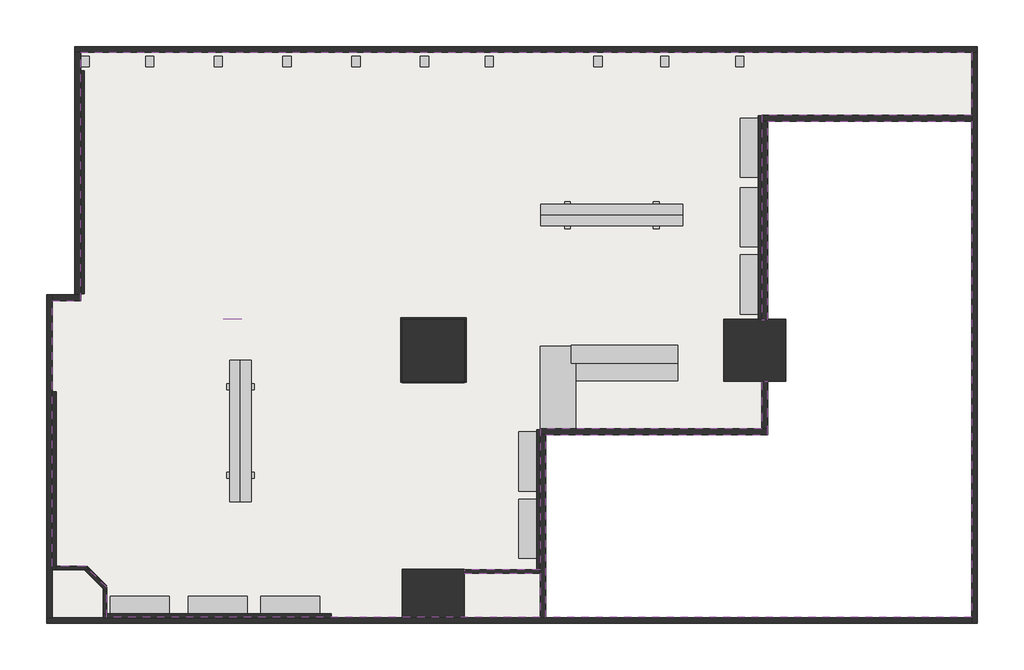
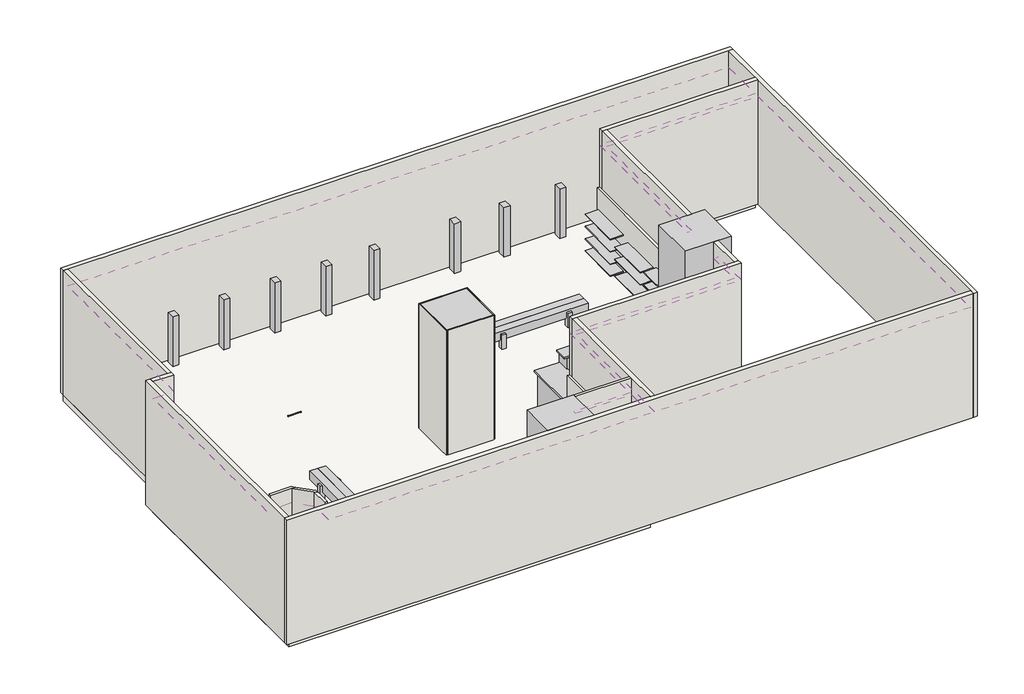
# One storey: 25 walls, 13 columns, 10 proxies, 2 furniture elements, 1 covering, 1 light fixture, 1 slab.
"""IFC4 building model written with IfcOpenShell, lengths in millimetres."""

from ifc_helpers import new_model, si_unit, frame, origin, origin_with_axes, place, context, project, spatial, polyline, outline, extrude, faceted_brep, transform, mapped, element, save
from components import specialty_equipment_e69ed6fe, generic_models_bc6898c8, generic_models_32a9213d, column_0fe4bcd3, column_105x105cm_051beba1, column_105x82cm_b301bd04, furniture_28d2bb1b, furniture_8bda5d38, light_fixture_e90a5b80

model = new_model("IFC4")

# Units and contexts
model_context = context("Model", 3, world=origin())
ifc_project = project(units=[si_unit("LENGTHUNIT", "METRE", prefix="MILLI")], contexts=[model_context])

# Site, building, storey
site = spatial("IfcSite", under=ifc_project)
building = spatial("IfcBuilding", under=site)
storey = spatial("IfcBuildingStorey", under=building, Name="樓層 1", Elevation=0.0)

# Proxies
placement = place(None, origin())
specialty_equipment_shape = specialty_equipment_e69ed6fe(model_context)
element("IfcBuildingElementProxy", 1, Name="香木隔板 : 香木隔板", ObjectType="香木隔板 : 香木隔板", at=placement, inside=storey, context=model_context, shape_type="MappedRepresentation", body=[
    mapped(specialty_equipment_shape, transform((4366.9757226, 3255.3110242, 0.0), x_axis=(1.0, 0.0, 0.0), y_axis=(0.0, 1.0, 0.0), z_axis=(0.0, 0.0, 1.0))),
])
element("IfcBuildingElementProxy", 2, Name="香木隔板 : 香木隔板", ObjectType="香木隔板 : 香木隔板", at=placement, inside=storey, context=model_context, shape_type="MappedRepresentation", body=[
    mapped(specialty_equipment_shape, transform((4366.9757226, 938.6443575, 0.0), x_axis=(1.0, 0.0, 0.0), y_axis=(0.0, 1.0, 0.0), z_axis=(0.0, 0.0, 1.0))),
])
element("IfcBuildingElementProxy", 3, Name="香木隔板 : 香木隔板", ObjectType="香木隔板 : 香木隔板", at=placement, inside=storey, context=model_context, shape_type="MappedRepresentation", body=[
    mapped(specialty_equipment_shape, transform((616.9757226, -2054.6889758, 0.0), x_axis=(1.0, 0.0, 0.0), y_axis=(0.0, 1.0, 0.0), z_axis=(0.0, 0.0, 1.0))),
])
element("IfcBuildingElementProxy", 4, Name="香木隔板 : 香木隔板", ObjectType="香木隔板 : 香木隔板", at=placement, inside=storey, context=model_context, shape_type="MappedRepresentation", body=[
    mapped(specialty_equipment_shape, transform((-3399.1793928, -4486.4048327, 0.0), x_axis=(-0.0034299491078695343, -0.999994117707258, 0.0), y_axis=(0.999994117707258, -0.0034299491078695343, 0.0), z_axis=(0.0, 0.0, 1.0))),
])
element("IfcBuildingElementProxy", 5, Name="香木隔板 : 香木隔板", ObjectType="香木隔板 : 香木隔板", at=placement, inside=storey, context=model_context, shape_type="MappedRepresentation", body=[
    mapped(specialty_equipment_shape, transform((-5944.7188294, -4486.4048327, 0.0), x_axis=(-0.0034299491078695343, -0.999994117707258, 0.0), y_axis=(0.999994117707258, -0.0034299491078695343, 0.0), z_axis=(0.0, 0.0, 1.0))),
])
generic_models_shape = generic_models_bc6898c8(model_context)
element("IfcBuildingElementProxy", 6, Name="香木隔板2 : 香木隔板2", ObjectType="香木隔板2 : 香木隔板2", at=placement, inside=storey, context=model_context, shape_type="MappedRepresentation", body=[
    mapped(generic_models_shape, transform((4366.9757226, 2075.3110242, 0.0), x_axis=(1.0, 0.0, 0.0), y_axis=(0.0, 1.0, 0.0), z_axis=(0.0, 0.0, 1.0))),
])
element("IfcBuildingElementProxy", 7, Name="香木隔板2 : 香木隔板2", ObjectType="香木隔板2 : 香木隔板2", at=placement, inside=storey, context=model_context, shape_type="MappedRepresentation", body=[
    mapped(generic_models_shape, transform((616.9757226, -3194.6889758, 0.0), x_axis=(1.0, 0.0, 0.0), y_axis=(0.0, 1.0, 0.0), z_axis=(0.0, 0.0, 1.0))),
])
element("IfcBuildingElementProxy", 8, Name="香木隔板2 : 香木隔板2", ObjectType="香木隔板2 : 香木隔板2", at=placement, inside=storey, context=model_context, shape_type="MappedRepresentation", body=[
    mapped(generic_models_shape, transform((-4626.434607, -4484.6889758, 0.0), x_axis=(0.0, 1.0, 0.0), y_axis=(-1.0, 0.0, 0.0), z_axis=(0.0, 0.0, 1.0))),
])
generic_models_2_shape = generic_models_32a9213d(model_context)
element("IfcBuildingElementProxy", 9, Name="枕木椅 : 枕木椅", ObjectType="枕木椅 : 枕木椅", at=placement, inside=storey, context=model_context, shape_type="MappedRepresentation", body=[
    mapped(generic_models_2_shape, transform((2046.9757226, 1755.3110242, 0.0), x_axis=(1.0, 0.0, 0.0), y_axis=(0.0, 1.0, 0.0), z_axis=(0.0, 0.0, 1.0))),
])
element("IfcBuildingElementProxy", 10, Name="枕木椅 : 枕木椅", ObjectType="枕木椅 : 枕木椅", at=placement, inside=storey, context=model_context, shape_type="MappedRepresentation", body=[
    mapped(generic_models_2_shape, transform((-3884.5630462, -1531.2477319, 0.0), x_axis=(0.0, 1.0, 0.0), y_axis=(-1.0, 0.0, 0.0), z_axis=(0.0, 0.0, 1.0))),
])

# Columns
column_shape = column_0fe4bcd3(model_context)
element("IfcColumn", 11, ObjectType="混凝土柱-矩形 : 枕木14x18cm", at=placement, inside=storey, context=model_context, shape_type="MappedRepresentation", body=[
    mapped(column_shape, transform((-33.0242774, 4715.3110242, 0.0), x_axis=(1.0, 0.0, 0.0), y_axis=(0.0, 1.0, 0.0), z_axis=(0.0, 0.0, 1.0))),
])
element("IfcColumn", 12, ObjectType="混凝土柱-矩形 : 枕木14x18cm", at=placement, inside=storey, context=model_context, shape_type="MappedRepresentation", body=[
    mapped(column_shape, transform((-1128.0242774, 4715.3110242, 0.0), x_axis=(1.0, 0.0, 0.0), y_axis=(0.0, 1.0, 0.0), z_axis=(0.0, 0.0, 1.0))),
])
element("IfcColumn", 13, ObjectType="混凝土柱-矩形 : 枕木14x18cm", at=placement, inside=storey, context=model_context, shape_type="MappedRepresentation", body=[
    mapped(column_shape, transform((-2288.0242774, 4715.3110242, 0.0), x_axis=(1.0, 0.0, 0.0), y_axis=(0.0, 1.0, 0.0), z_axis=(0.0, 0.0, 1.0))),
])
element("IfcColumn", 14, ObjectType="混凝土柱-矩形 : 枕木14x18cm", at=placement, inside=storey, context=model_context, shape_type="MappedRepresentation", body=[
    mapped(column_shape, transform((-3453.0242774, 4715.3110242, 0.0), x_axis=(1.0, 0.0, 0.0), y_axis=(0.0, 1.0, 0.0), z_axis=(0.0, 0.0, 1.0))),
])
element("IfcColumn", 15, ObjectType="混凝土柱-矩形 : 枕木14x18cm", at=placement, inside=storey, context=model_context, shape_type="MappedRepresentation", body=[
    mapped(column_shape, transform((-4616.7013238, 4715.3110242, 0.0), x_axis=(1.0, 0.0, 0.0), y_axis=(0.0, 1.0, 0.0), z_axis=(0.0, 0.0, 1.0))),
])
element("IfcColumn", 16, ObjectType="混凝土柱-矩形 : 枕木14x18cm", at=placement, inside=storey, context=model_context, shape_type="MappedRepresentation", body=[
    mapped(column_shape, transform((-5778.0242774, 4715.3110242, 0.0), x_axis=(1.0, 0.0, 0.0), y_axis=(0.0, 1.0, 0.0), z_axis=(0.0, 0.0, 1.0))),
])
element("IfcColumn", 17, ObjectType="混凝土柱-矩形 : 枕木14x18cm", at=placement, inside=storey, context=model_context, shape_type="MappedRepresentation", body=[
    mapped(column_shape, transform((-6873.0242774, 4715.3110242, 0.0), x_axis=(1.0, 0.0, 0.0), y_axis=(0.0, 1.0, 0.0), z_axis=(0.0, 0.0, 1.0))),
])
element("IfcColumn", 18, ObjectType="混凝土柱-矩形 : 枕木14x18cm", at=placement, inside=storey, context=model_context, shape_type="MappedRepresentation", body=[
    mapped(column_shape, transform((4206.9757226, 4715.3110242, 0.0), x_axis=(1.0, 0.0, 0.0), y_axis=(0.0, 1.0, 0.0), z_axis=(0.0, 0.0, 1.0))),
])
element("IfcColumn", 19, ObjectType="混凝土柱-矩形 : 枕木14x18cm", at=placement, inside=storey, context=model_context, shape_type="MappedRepresentation", body=[
    mapped(column_shape, transform((2936.9757226, 4715.3110242, 0.0), x_axis=(1.0, 0.0, 0.0), y_axis=(0.0, 1.0, 0.0), z_axis=(0.0, 0.0, 1.0))),
])
element("IfcColumn", 20, ObjectType="混凝土柱-矩形 : 枕木14x18cm", at=placement, inside=storey, context=model_context, shape_type="MappedRepresentation", body=[
    mapped(column_shape, transform((1807.7079084, 4715.3110242, 0.0), x_axis=(1.0, 0.0, 0.0), y_axis=(0.0, 1.0, 0.0), z_axis=(0.0, 0.0, 1.0))),
])
column_105x105cm_shape = column_105x105cm_051beba1(model_context)
element("IfcColumn", 21, ObjectType="混凝土柱-矩形 : 105x105cm", at=placement, inside=storey, context=model_context, shape_type="MappedRepresentation", body=[
    mapped(column_105x105cm_shape, transform((4455.3682233, -174.6889758, 0.0), x_axis=(1.0, 0.0, 0.0), y_axis=(0.0, 1.0, 0.0), z_axis=(0.0, 0.0, 1.0))),
])
element("IfcColumn", 22, ObjectType="混凝土柱-矩形 : 105x105cm", at=placement, inside=storey, context=model_context, shape_type="MappedRepresentation", body=[
    mapped(column_105x105cm_shape, transform((-983.0242774, -174.6889758, 0.0), x_axis=(1.0, 0.0, 0.0), y_axis=(0.0, 1.0, 0.0), z_axis=(0.0, 0.0, 1.0))),
])
column_105x82cm_shape = column_105x82cm_b301bd04(model_context)
element("IfcColumn", 23, ObjectType="混凝土柱-矩形 : 105x82cm", at=placement, inside=storey, context=model_context, shape_type="MappedRepresentation", body=[
    mapped(column_105x82cm_shape, transform((-983.0242774, -4284.6889758, 0.0), x_axis=(1.0, 0.0, 0.0), y_axis=(0.0, 1.0, 0.0), z_axis=(0.0, 0.0, 1.0))),
])

# Covering
element("IfcCovering", 24, ObjectType="玻纖天花板 600x600mmx20mm 2", at=placement, inside=storey, context=model_context, shape_type="SweptSolid", body=[
    extrude(outline(polyline([(-6943.0242774, 4865.3110242), (8126.9757226, 4865.3110242), (8126.9757226, 3805.3110242), (4576.9757226, 3805.3110242), (4576.9757226, 345.3110242), (4676.9757226, 345.3110242), (4676.9757226, 3705.3110242), (8126.9757226, 3705.3110242), (8126.9757226, -4694.6889758), (926.9757226, -4694.6889758), (926.9757226, -1604.6889758), (4676.9757226, -1604.6889758), (4676.9757226, -704.6889758), (4576.9757226, -704.6889758), (4576.9757226, -1504.6889758), (826.9757226, -1504.6889758), (826.9757226, -3884.6889758), (-458.0242774, -3884.6889758), (-458.0242774, -3944.6889758), (826.9757226, -3944.6889758), (826.9757226, -4694.6889758), (-6505.2303807, -4694.6889758), (-6505.2303807, -4184.006221), (-6859.8722281, -3829.3643735), (-7423.0242774, -3829.3643735), (-7423.0242774, 665.3110242), (-6943.0242774, 665.3110242), (-6943.0242774, 4865.3110242)]), holes=[polyline([(-423.0242774, -724.6889758), (-423.0242774, 375.3110242), (-1533.0242774, 375.3110242), (-1533.0242774, -724.6889758), (-423.0242774, -724.6889758)])]), frame((0.0, 0.0, 2600.0), z_axis=(0.0, 0.0, 1.0), x_axis=(1.0, 0.0, 0.0)), (0.0, 0.0, 1.0), 20.0),
])

# Furniture
furniture_shape = furniture_28d2bb1b(model_context)
element("IfcFurniture", 25, ObjectType="櫃台 : 櫃台", at=placement, inside=storey, context=model_context, shape_type="MappedRepresentation", body=[
    mapped(furniture_shape, transform((2253.1658406, -389.2931998, 0.0), x_axis=(0.0, -1.0, 0.0), y_axis=(1.0, 0.0, 0.0), z_axis=(0.0, 0.0, 1.0))),
])
furniture_2_shape = furniture_8bda5d38(model_context)
element("IfcFurniture", 26, ObjectType="包裝台 : 包裝台", at=placement, inside=storey, context=model_context, shape_type="MappedRepresentation", body=[
    mapped(furniture_2_shape, transform((1126.9026587, -805.136746, 0.0), x_axis=(1.0, 0.0, 0.0), y_axis=(0.0, 1.0, 0.0), z_axis=(0.0, 0.0, 1.0))),
])

# Light fixture
light_fixture_shape = light_fixture_e90a5b80(model_context)
element("IfcLightFixture", 27, ObjectType="層板燈 (2)-向下照射 : 10瓦層板燈", at=placement, inside=storey, context=model_context, shape_type="MappedRepresentation", body=[
    mapped(light_fixture_shape, transform((-4373.0242774, 355.3110242, 0.0), x_axis=(1.0, 0.0, 0.0), y_axis=(0.0, 1.0, 0.0), z_axis=(0.0, 0.0, 1.0))),
])

# Slab
element("IfcSlab", 28, ObjectType="一般 - 15cm", at=placement, inside=storey, context=model_context, shape_type="SweptSolid", body=[
    extrude(outline(polyline([(-7043.0242774, 4865.3110242), (8126.9757226, 4865.3110242), (8126.9757226, 3805.3110242), (4576.9757226, 3805.3110242), (4576.9757226, 350.3110242), (4576.9757226, -704.6889758), (4576.9757226, -1504.6889758), (826.9757226, -1504.6889758), (826.9757226, -4694.6889758), (-7423.0242774, -4694.6889758), (-7423.0242774, 665.3110242), (-7043.0242774, 665.3110242), (-7043.0242774, 4865.3110242)])), frame((0.0, 0.0, -150.0), z_axis=(0.0, 0.0, 1.0), x_axis=(1.0, 0.0, 0.0)), (0.0, 0.0, 1.0), 150.0),
])

# Walls
element("IfcWall", 29, ObjectType="牆10cm", at=placement, inside=storey, context=model_context, shape_type="Brep", body=[
    faceted_brep([(-7043.0242774, 4865.3110242, 0.0), (-6943.0242774, 4865.3110242, 0.0), (8126.9757226, 4865.3110242, 0.0), (8226.9757226, 4865.3110242, 0.0), (8226.9757226, 4865.3110242, 3000.0), (8126.9757226, 4865.3110242, 3000.0), (-6943.0242774, 4865.3110242, 3000.0), (-7043.0242774, 4865.3110242, 3000.0), (-7043.0242774, 4965.3110242, 0.0), (-7043.0242774, 4965.3110242, 3000.0), (8226.9757226, 4965.3110242, 3000.0), (8226.9757226, 4965.3110242, 0.0)], [[[0, 1, 2, 3, 4, 5, 6, 7]], [[8, 9, 10, 11]], [[3, 2, 1, 0, 8, 11]], [[7, 6, 5, 4, 10, 9]], [[4, 3, 11, 10]], [[0, 7, 9, 8]]]),
])
element("IfcWall", 30, ObjectType="牆10cm", at=placement, inside=storey, context=model_context, shape_type="Brep", body=[
    faceted_brep([(8126.9757226, 4865.3110242, 0.0), (8126.9757226, 3805.3110242, 0.0), (8126.9757226, 3705.3110242, 0.0), (8126.9757226, -4694.6889758, 0.0), (8126.9757226, -4794.6889758, 0.0), (8126.9757226, -4794.6889758, 3000.0), (8126.9757226, -4694.6889758, 3000.0), (8126.9757226, 3705.3110242, 3000.0), (8126.9757226, 3805.3110242, 3000.0), (8126.9757226, 4865.3110242, 3000.0), (8226.9757226, 4865.3110242, 0.0), (8226.9757226, 4865.3110242, 3000.0), (8226.9757226, -4794.6889758, 3000.0), (8226.9757226, -4794.6889758, 0.0)], [[[0, 1, 2, 3, 4, 5, 6, 7, 8, 9]], [[10, 11, 12, 13]], [[4, 3, 2, 1, 0, 10, 13]], [[9, 8, 7, 6, 5, 12, 11]], [[5, 4, 13, 12]], [[0, 9, 11, 10]]]),
])
element("IfcWall", 31, ObjectType="牆10cm", at=placement, inside=storey, context=model_context, shape_type="Brep", body=[
    faceted_brep([(8126.9757226, -4694.6889758, 0.0), (926.9757226, -4694.6889758, 0.0), (826.9757226, -4694.6889758, 0.0), (-7423.0242774, -4694.6889758, 0.0), (-7523.0242774, -4694.6889758, 0.0), (-7523.0242774, -4694.6889758, 3000.0), (-7423.0242774, -4694.6889758, 3000.0), (826.9757226, -4694.6889758, 3000.0), (926.9757226, -4694.6889758, 3000.0), (8126.9757226, -4694.6889758, 3000.0), (8126.9757226, -4794.6889758, 0.0), (8126.9757226, -4794.6889758, 3000.0), (-7523.0242774, -4794.6889758, 3000.0), (-7523.0242774, -4794.6889758, 0.0)], [[[0, 1, 2, 3, 4, 5, 6, 7, 8, 9]], [[10, 11, 12, 13]], [[4, 3, 2, 1, 0, 10, 13]], [[9, 8, 7, 6, 5, 12, 11]], [[5, 4, 13, 12]], [[0, 9, 11, 10]]]),
])
element("IfcWall", 32, ObjectType="牆10cm", at=placement, inside=storey, context=model_context, shape_type="Brep", body=[
    faceted_brep([(-7423.0242774, -4694.6889758, 0.0), (-7423.0242774, 665.3110242, 0.0), (-7423.0242774, 765.3110242, 0.0), (-7423.0242774, 765.3110242, 3000.0), (-7423.0242774, 665.3110242, 3000.0), (-7423.0242774, -4694.6889758, 3000.0), (-7523.0242774, -4694.6889758, 0.0), (-7523.0242774, -4694.6889758, 3000.0), (-7523.0242774, 765.3110242, 3000.0), (-7523.0242774, 765.3110242, 0.0)], [[[0, 1, 2, 3, 4, 5]], [[6, 7, 8, 9]], [[2, 1, 0, 6, 9]], [[5, 4, 3, 8, 7]], [[3, 2, 9, 8]], [[0, 5, 7, 6]]]),
])
element("IfcWall", 33, ObjectType="牆10cm", at=placement, inside=storey, context=model_context, shape_type="Brep", body=[
    faceted_brep([(-7423.0242774, 665.3110242, 0.0), (-6943.0242774, 665.3110242, 0.0), (-6943.0242774, 665.3110242, 3000.0), (-7423.0242774, 665.3110242, 3000.0), (-7423.0242774, 765.3110242, 0.0), (-7423.0242774, 765.3110242, 3000.0), (-7043.0242774, 765.3110242, 3000.0), (-6943.0242774, 765.3110242, 3000.0), (-6943.0242774, 765.3110242, 0.0), (-7043.0242774, 765.3110242, 0.0)], [[[0, 1, 2, 3]], [[4, 5, 6, 7, 8, 9]], [[1, 0, 4, 9, 8]], [[3, 2, 7, 6, 5]], [[2, 1, 8, 7]], [[0, 3, 5, 4]]]),
])
element("IfcWall", 34, ObjectType="牆10cm", at=placement, inside=storey, context=model_context, shape_type="SweptSolid", body=[
    extrude(outline(polyline([(-6943.0242774, 4865.3110242), (-6943.0242774, 765.3110242), (-7043.0242774, 765.3110242), (-7043.0242774, 4865.3110242), (-6943.0242774, 4865.3110242)])), origin_with_axes(), (0.0, 0.0, 1.0), 3000.0),
])
element("IfcWall", 35, ObjectType="牆10cm", at=placement, inside=storey, context=model_context, shape_type="Brep", body=[
    faceted_brep([(8126.9757226, 3805.3110242, 0.0), (4576.9757226, 3805.3110242, 0.0), (4576.9757226, 3805.3110242, 3000.0), (8126.9757226, 3805.3110242, 3000.0), (8126.9757226, 3705.3110242, 0.0), (8126.9757226, 3705.3110242, 3000.0), (4676.9757226, 3705.3110242, 3000.0), (4576.9757226, 3705.3110242, 3000.0), (4576.9757226, 3705.3110242, 0.0), (4676.9757226, 3705.3110242, 0.0)], [[[0, 1, 2, 3]], [[4, 5, 6, 7, 8, 9]], [[1, 0, 4, 9, 8]], [[3, 2, 7, 6, 5]], [[2, 1, 8, 7]], [[0, 3, 5, 4]]]),
])
element("IfcWall", 36, ObjectType="牆10cm", at=placement, inside=storey, context=model_context, shape_type="SweptSolid", body=[
    extrude(outline(polyline([(4576.9757226, 345.3110242), (4576.9757226, 3705.3110242), (4676.9757226, 3705.3110242), (4676.9757226, 345.3110242), (4576.9757226, 345.3110242)])), origin_with_axes(), (0.0, 0.0, 1.0), 3000.0),
])
element("IfcWall", 37, ObjectType="牆10cm", at=placement, inside=storey, context=model_context, shape_type="Brep", body=[
    faceted_brep([(4676.9757226, -1504.6889758, 0.0), (4576.9757226, -1504.6889758, 0.0), (826.9757226, -1504.6889758, 0.0), (826.9757226, -1504.6889758, 3000.0), (4576.9757226, -1504.6889758, 3000.0), (4676.9757226, -1504.6889758, 3000.0), (4676.9757226, -1604.6889758, 0.0), (4676.9757226, -1604.6889758, 3000.0), (926.9757226, -1604.6889758, 3000.0), (826.9757226, -1604.6889758, 3000.0), (826.9757226, -1604.6889758, 0.0), (926.9757226, -1604.6889758, 0.0)], [[[0, 1, 2, 3, 4, 5]], [[6, 7, 8, 9, 10, 11]], [[2, 1, 0, 6, 11, 10]], [[5, 4, 3, 9, 8, 7]], [[3, 2, 10, 9]], [[0, 5, 7, 6]]]),
])
element("IfcWall", 38, ObjectType="牆10cm", at=placement, inside=storey, context=model_context, shape_type="Brep", body=[
    faceted_brep([(826.9757226, -1604.6889758, 0.0), (826.9757226, -3884.6889758, 0.0), (826.9757226, -3944.6889758, 0.0), (826.9757226, -4694.6889758, 0.0), (826.9757226, -4694.6889758, 3000.0), (826.9757226, -3944.6889758, 3000.0), (826.9757226, -3884.6889758, 3000.0), (826.9757226, -1604.6889758, 3000.0), (926.9757226, -1604.6889758, 0.0), (926.9757226, -1604.6889758, 3000.0), (926.9757226, -4694.6889758, 3000.0), (926.9757226, -4694.6889758, 0.0)], [[[0, 1, 2, 3, 4, 5, 6, 7]], [[8, 9, 10, 11]], [[3, 2, 1, 0, 8, 11]], [[7, 6, 5, 4, 10, 9]], [[0, 7, 9, 8]], [[4, 3, 11, 10]]]),
])
element("IfcWall", 39, ObjectType="牆10cm", at=placement, inside=storey, context=model_context, shape_type="SweptSolid", body=[
    extrude(outline(polyline([(4676.9757226, -704.6889758), (4676.9757226, -1504.6889758), (4576.9757226, -1504.6889758), (4576.9757226, -704.6889758), (4676.9757226, -704.6889758)])), origin_with_axes(), (0.0, 0.0, 1.0), 3000.0),
])
element("IfcWall", 40, ObjectType="木版6cm", at=placement, inside=storey, context=model_context, shape_type="SweptSolid", body=[
    extrude(outline(polyline([(4576.9757226, 3795.3110242), (4576.9757226, 350.3110242), (4516.9757226, 350.3110242), (4516.9757226, 3795.3110242), (4576.9757226, 3795.3110242)])), origin_with_axes(), (0.0, 0.0, 1.0), 1600.0),
])
element("IfcWall", 41, ObjectType="木版6cm", at=placement, inside=storey, context=model_context, shape_type="SweptSolid", body=[
    extrude(outline(polyline([(-6943.0242774, 785.3110242), (-6943.0242774, 4555.3110242), (-6883.0242774, 4555.3110242), (-6883.0242774, 785.3110242), (-6943.0242774, 785.3110242)])), origin_with_axes(), (0.0, 0.0, 1.0), 1600.0),
])
element("IfcWall", 42, ObjectType="木版6cm", at=placement, inside=storey, context=model_context, shape_type="Brep", body=[
    faceted_brep([(-7423.0242774, -874.6889758, 0.0), (-7423.0242774, -3889.3643735, 0.0), (-7423.0242774, -3889.3643735, 1600.0), (-7423.0242774, -874.6889758, 1600.0), (-7363.0242774, -874.6889758, 0.0), (-7363.0242774, -874.6889758, 1600.0), (-7363.0242774, -3889.3643735, 1600.0), (-7363.0242774, -3889.3643735, 0.0), (-7363.0242774, -3829.3643735, 0.0)], [[[0, 1, 2, 3]], [[4, 5, 6, 7, 8]], [[1, 0, 4, 8, 7]], [[3, 2, 6, 5]], [[0, 3, 5, 4]], [[2, 1, 7, 6]]]),
])
element("IfcWall", 43, ObjectType="木版6cm", at=placement, inside=storey, context=model_context, shape_type="Brep", body=[
    faceted_brep([(-6565.2303807, -4694.6889758, 0.0), (-2703.0242774, -4694.6889758, 0.0), (-2703.0242774, -4694.6889758, 1600.0), (-6565.2303807, -4694.6889758, 1600.0), (-6565.2303807, -4634.6889758, 0.0), (-6565.2303807, -4634.6889758, 1600.0), (-2703.0242774, -4634.6889758, 1600.0), (-2703.0242774, -4634.6889758, 0.0), (-6505.2303807, -4634.6889758, 0.0)], [[[0, 1, 2, 3]], [[4, 5, 6, 7, 8]], [[1, 0, 4, 8, 7]], [[2, 1, 7, 6]], [[3, 2, 6, 5]], [[0, 3, 5, 4]]]),
])
element("IfcWall", 44, ObjectType="木版6cm", at=placement, inside=storey, context=model_context, shape_type="SweptSolid", body=[
    extrude(outline(polyline([(826.9757226, -1514.6889758), (826.9757226, -3874.6889758), (766.9757226, -3874.6889758), (766.9757226, -1514.6889758), (826.9757226, -1514.6889758)])), origin_with_axes(), (0.0, 0.0, 1.0), 1600.0),
])
element("IfcWall", 45, ObjectType="鏡子", at=placement, inside=storey, context=model_context, shape_type="Brep", body=[
    faceted_brep([(-1533.0242774, 355.3110242, 0.0), (-1513.0242774, 355.3110242, 0.0), (-443.0242774, 355.3110242, 0.0), (-423.0242774, 355.3110242, 0.0), (-423.0242774, 355.3110242, 3000.0), (-443.0242774, 355.3110242, 3000.0), (-1513.0242774, 355.3110242, 3000.0), (-1533.0242774, 355.3110242, 3000.0), (-1533.0242774, 375.3110242, 0.0), (-1533.0242774, 375.3110242, 3000.0), (-423.0242774, 375.3110242, 3000.0), (-423.0242774, 375.3110242, 0.0)], [[[0, 1, 2, 3, 4, 5, 6, 7]], [[8, 9, 10, 11]], [[3, 2, 1, 0, 8, 11]], [[7, 6, 5, 4, 10, 9]], [[0, 7, 9, 8]], [[4, 3, 11, 10]]]),
])
element("IfcWall", 46, ObjectType="鏡子", at=placement, inside=storey, context=model_context, shape_type="SweptSolid", body=[
    extrude(outline(polyline([(-1513.0242774, 355.3110242), (-1513.0242774, -714.6889758), (-1533.0242774, -714.6889758), (-1533.0242774, 355.3110242), (-1513.0242774, 355.3110242)])), origin_with_axes(), (0.0, 0.0, 1.0), 3000.0),
])
element("IfcWall", 47, ObjectType="鏡子", at=placement, inside=storey, context=model_context, shape_type="SweptSolid", body=[
    extrude(outline(polyline([(-1503.0242774, -704.6889758), (-453.0242774, -704.6889758), (-453.0242774, -724.6889758), (-1503.0242774, -724.6889758), (-1503.0242774, -704.6889758)])), origin_with_axes(), (0.0, 0.0, 1.0), 3000.0),
])
element("IfcWall", 48, ObjectType="鏡子", at=placement, inside=storey, context=model_context, shape_type="SweptSolid", body=[
    extrude(outline(polyline([(-443.0242774, -714.6889758), (-443.0242774, 355.3110242), (-423.0242774, 355.3110242), (-423.0242774, -714.6889758), (-443.0242774, -714.6889758)])), origin_with_axes(), (0.0, 0.0, 1.0), 3000.0),
])
element("IfcWall", 49, ObjectType="木版6cm", at=placement, inside=storey, context=model_context, shape_type="Brep", body=[
    faceted_brep([(-7363.0242774, -3889.3643735, 0.0), (-6884.7250419, -3889.3643735, 0.0), (-6799.8722281, -3889.3643735, 0.0), (-6799.8722281, -3889.3643735, 3000.0), (-6884.7250419, -3889.3643735, 3000.0), (-7363.0242774, -3889.3643735, 3000.0), (-7363.0242774, -3889.3643735, 1600.0), (-7363.0242774, -3829.3643735, 0.0), (-7363.0242774, -3829.3643735, 3000.0), (-6859.8722281, -3829.3643735, 3000.0), (-6859.8722281, -3829.3643735, 0.0)], [[[0, 1, 2, 3, 4, 5, 6]], [[7, 8, 9, 10]], [[2, 1, 0, 7, 10]], [[5, 4, 3, 9, 8]], [[3, 2, 10, 9]], [[0, 6, 5, 8, 7]]]),
])
element("IfcWall", 50, ObjectType="木版6cm", at=placement, inside=storey, context=model_context, shape_type="Brep", body=[
    faceted_brep([(-6884.7250419, -3889.3643735, 0.0), (-6565.2303807, -4208.8590347, 0.0), (-6505.2303807, -4268.8590347, 0.0), (-6505.2303807, -4268.8590347, 3000.0), (-6565.2303807, -4208.8590347, 3000.0), (-6884.7250419, -3889.3643735, 3000.0), (-6799.8722281, -3889.3643735, 0.0), (-6799.8722281, -3889.3643735, 3000.0), (-6505.2303807, -4184.006221, 3000.0), (-6505.2303807, -4184.006221, 0.0)], [[[0, 1, 2, 3, 4, 5]], [[6, 7, 8, 9]], [[2, 1, 0, 6, 9]], [[5, 4, 3, 8, 7]], [[3, 2, 9, 8]], [[0, 5, 7, 6]]]),
])
element("IfcWall", 51, ObjectType="木版6cm", at=placement, inside=storey, context=model_context, shape_type="Brep", body=[
    faceted_brep([(-6565.2303807, -4208.8590347, 0.0), (-6565.2303807, -4634.6889758, 0.0), (-6565.2303807, -4634.6889758, 1600.0), (-6565.2303807, -4634.6889758, 3000.0), (-6565.2303807, -4208.8590347, 3000.0), (-6505.2303807, -4268.8590347, 0.0), (-6505.2303807, -4268.8590347, 3000.0), (-6505.2303807, -4634.6889758, 3000.0), (-6505.2303807, -4634.6889758, 0.0)], [[[0, 1, 2, 3, 4]], [[5, 6, 7, 8]], [[1, 0, 5, 8]], [[4, 3, 7, 6]], [[0, 4, 6, 5]], [[3, 2, 1, 8, 7]]]),
])
element("IfcWall", 52, ObjectType="鏡子", at=placement, inside=storey, context=model_context, shape_type="SweptSolid", body=[
    extrude(outline(polyline([(-6519.3725163, -4169.8640853), (-6845.7300925, -3843.5065091), (-6831.5879569, -3829.3643735), (-6505.2303807, -4155.7219497), (-6519.3725163, -4169.8640853)])), origin_with_axes(), (0.0, 0.0, 1.0), 1800.0),
])
element("IfcWall", 53, ObjectType="木版6cm 2", at=placement, inside=storey, context=model_context, shape_type="SweptSolid", body=[
    extrude(outline(polyline([(826.9757226, -3944.6889758), (-458.0242774, -3944.6889758), (-458.0242774, -3884.6889758), (826.9757226, -3884.6889758), (826.9757226, -3944.6889758)])), origin_with_axes(), (0.0, 0.0, 1.0), 3000.0),
])

save(model, "model.ifc")
